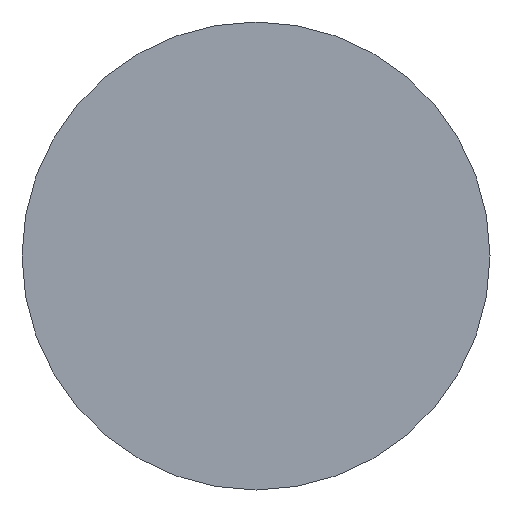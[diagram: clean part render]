
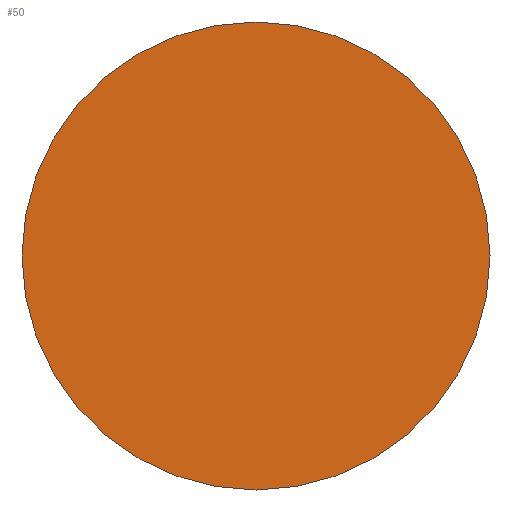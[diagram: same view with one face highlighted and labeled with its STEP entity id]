
A CAD part, left-side view. The second image highlights one B-rep face of the part: STEP entity #50.
In plain terms, the highlighted planar face has unit normal (-1, 0, 0).
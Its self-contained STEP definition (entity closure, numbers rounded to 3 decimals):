
#9 = DIRECTION ( 'NONE',  ( 1., 0., 0. ) ) ;
#21 = ORIENTED_EDGE ( 'NONE', *, *, #27, .F. ) ;
#23 = CIRCLE ( 'NONE', #240, 5. ) ;
#27 = EDGE_CURVE ( 'NONE', #182, #232, #243, .T. ) ;
#33 = CARTESIAN_POINT ( 'NONE',  ( 0., 5., 0. ) ) ;
#37 = DIRECTION ( 'NONE',  ( -1., 0., 0. ) ) ;
#50 = ADVANCED_FACE ( 'NONE', ( #149 ), #264, .T. ) ;
#69 = EDGE_LOOP ( 'NONE', ( #21, #112 ) ) ;
#112 = ORIENTED_EDGE ( 'NONE', *, *, #178, .F. ) ;
#141 = CARTESIAN_POINT ( 'NONE',  ( 0., -5., 0. ) ) ;
#149 = FACE_OUTER_BOUND ( 'NONE', #69, .T. ) ;
#152 = CARTESIAN_POINT ( 'NONE',  ( 0., 0., 0. ) ) ;
#154 = DIRECTION ( 'NONE',  ( 0., -1., 0. ) ) ;
#160 = CARTESIAN_POINT ( 'NONE',  ( 0., 0., 0. ) ) ;
#171 = DIRECTION ( 'NONE',  ( 1., 0., 0. ) ) ;
#173 = AXIS2_PLACEMENT_3D ( 'NONE', #219, #37, #154 ) ;
#174 = DIRECTION ( 'NONE',  ( 0., 1., 0. ) ) ;
#178 = EDGE_CURVE ( 'NONE', #232, #182, #23, .T. ) ;
#182 = VERTEX_POINT ( 'NONE', #33 ) ;
#219 = CARTESIAN_POINT ( 'NONE',  ( 0., 0., 0. ) ) ;
#223 = DIRECTION ( 'NONE',  ( 0., 1., 0. ) ) ;
#229 = AXIS2_PLACEMENT_3D ( 'NONE', #152, #171, #174 ) ;
#232 = VERTEX_POINT ( 'NONE', #141 ) ;
#240 = AXIS2_PLACEMENT_3D ( 'NONE', #160, #9, #223 ) ;
#243 = CIRCLE ( 'NONE', #229, 5. ) ;
#264 = PLANE ( 'NONE',  #173 ) ;
